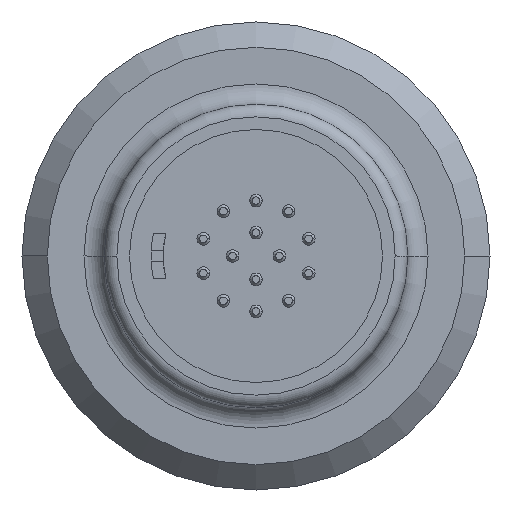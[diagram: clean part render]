
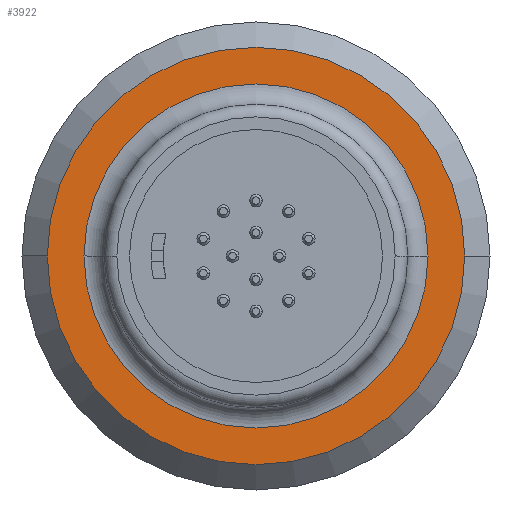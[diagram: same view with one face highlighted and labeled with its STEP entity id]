
A CAD part, left-side view. The second image highlights one B-rep face of the part: STEP entity #3922.
In plain terms, the highlighted planar face has unit normal (-1, 0, 0).
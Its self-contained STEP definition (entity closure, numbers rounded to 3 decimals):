
#432=CARTESIAN_POINT('',(-4.,0.,0.));
#433=DIRECTION('',(1.,0.,0.));
#434=DIRECTION('',(0.,-1.,0.));
#435=AXIS2_PLACEMENT_3D('',#432,#433,#434);
#437=CARTESIAN_POINT('',(-4.,0.,0.));
#438=DIRECTION('',(1.,0.,0.));
#439=DIRECTION('',(0.,0.,-1.));
#440=AXIS2_PLACEMENT_3D('',#437,#438,#439);
#442=CARTESIAN_POINT('',(-4.,0.,0.));
#443=DIRECTION('',(1.,0.,0.));
#444=DIRECTION('',(0.,1.,0.));
#445=AXIS2_PLACEMENT_3D('',#442,#443,#444);
#447=CARTESIAN_POINT('',(-4.,0.,0.));
#448=DIRECTION('',(1.,0.,0.));
#449=DIRECTION('',(0.,0.,1.));
#450=AXIS2_PLACEMENT_3D('',#447,#448,#449);
#452=CARTESIAN_POINT('',(-4.,0.,0.));
#453=DIRECTION('',(-1.,0.,0.));
#454=DIRECTION('',(0.,-1.,0.));
#455=AXIS2_PLACEMENT_3D('',#452,#453,#454);
#457=CARTESIAN_POINT('',(-4.,0.,0.));
#458=DIRECTION('',(-1.,0.,0.));
#459=DIRECTION('',(0.,1.,0.));
#460=AXIS2_PLACEMENT_3D('',#457,#458,#459);
#2933=CARTESIAN_POINT('',(-4.,-8.25,0.));
#2934=VERTEX_POINT('',#2933);
#2935=CARTESIAN_POINT('',(-4.,8.25,0.));
#2936=CARTESIAN_POINT('',(-4.,0.,8.25));
#2937=VERTEX_POINT('',#2935);
#2938=VERTEX_POINT('',#2936);
#2941=CARTESIAN_POINT('',(-4.,0.,-8.25));
#2942=VERTEX_POINT('',#2941);
#2943=CARTESIAN_POINT('',(-4.,-6.8,-0.001));
#2944=CARTESIAN_POINT('',(-4.,6.8,0.001));
#2945=VERTEX_POINT('',#2943);
#2946=VERTEX_POINT('',#2944);
#3905=CARTESIAN_POINT('',(-4.,0.,0.));
#3906=DIRECTION('',(-1.,0.,0.));
#3907=DIRECTION('',(0.,-1.,0.));
#3908=AXIS2_PLACEMENT_3D('',#3905,#3906,#3907);
#3909=PLANE('',#3908);
#3910=ORIENTED_EDGE('',*,*,#3872,.T.);
#3911=ORIENTED_EDGE('',*,*,#3870,.T.);
#3912=ORIENTED_EDGE('',*,*,#3846,.T.);
#3913=ORIENTED_EDGE('',*,*,#3844,.T.);
#3914=EDGE_LOOP('',(#3910,#3911,#3912,#3913));
#3915=FACE_OUTER_BOUND('',#3914,.F.);
#3917=ORIENTED_EDGE('',*,*,#3916,.T.);
#3919=ORIENTED_EDGE('',*,*,#3918,.T.);
#3920=EDGE_LOOP('',(#3917,#3919));
#3921=FACE_BOUND('',#3920,.F.);
#436=CIRCLE('',#435,8.25);
#441=CIRCLE('',#440,8.25);
#446=CIRCLE('',#445,8.25);
#451=CIRCLE('',#450,8.25);
#456=CIRCLE('',#455,6.8);
#461=CIRCLE('',#460,6.8);
#3844=EDGE_CURVE('',#2938,#2934,#451,.T.);
#3846=EDGE_CURVE('',#2937,#2938,#446,.T.);
#3870=EDGE_CURVE('',#2942,#2937,#441,.T.);
#3872=EDGE_CURVE('',#2934,#2942,#436,.T.);
#3916=EDGE_CURVE('',#2945,#2946,#456,.T.);
#3918=EDGE_CURVE('',#2946,#2945,#461,.T.);
#3922=ADVANCED_FACE('',(#3915,#3921),#3909,.T.);
